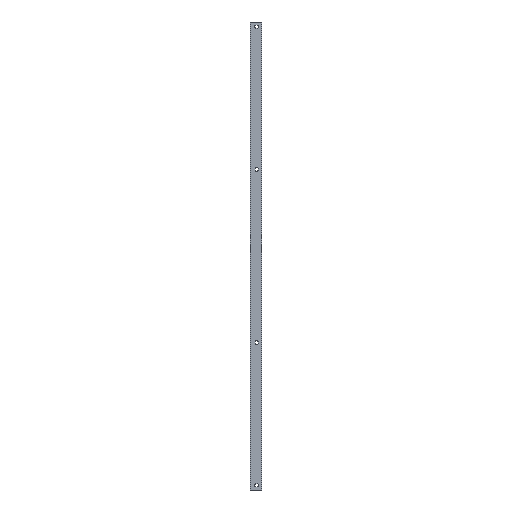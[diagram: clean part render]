
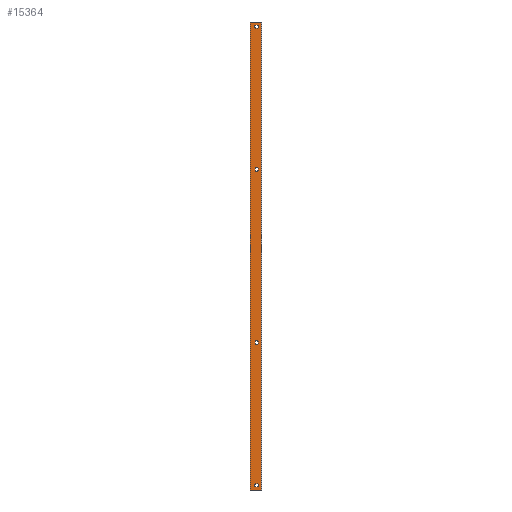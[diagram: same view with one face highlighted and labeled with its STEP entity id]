
A CAD part, front view. The second image highlights one B-rep face of the part: STEP entity #15364.
In plain terms, the highlighted planar face has unit normal (0, -1, 0).
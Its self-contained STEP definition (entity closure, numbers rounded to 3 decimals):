
#194=CIRCLE('',#16154,5.563);
#196=CIRCLE('',#16158,5.563);
#198=CIRCLE('',#16162,5.563);
#200=CIRCLE('',#16166,5.563);
#205=CIRCLE('',#16175,5.563);
#206=CIRCLE('',#16176,5.563);
#207=CIRCLE('',#16177,5.563);
#208=CIRCLE('',#16178,5.563);
#1009=ORIENTED_EDGE('',*,*,#5400,.T.);
#1010=ORIENTED_EDGE('',*,*,#5403,.T.);
#1011=ORIENTED_EDGE('',*,*,#5406,.T.);
#1012=ORIENTED_EDGE('',*,*,#5408,.T.);
#1013=ORIENTED_EDGE('',*,*,#5388,.T.);
#1014=ORIENTED_EDGE('',*,*,#5391,.T.);
#1015=ORIENTED_EDGE('',*,*,#5394,.T.);
#1016=ORIENTED_EDGE('',*,*,#5396,.T.);
#1017=ORIENTED_EDGE('',*,*,#5423,.F.);
#1018=ORIENTED_EDGE('',*,*,#5424,.F.);
#1019=ORIENTED_EDGE('',*,*,#5425,.F.);
#1020=ORIENTED_EDGE('',*,*,#5426,.F.);
#1021=ORIENTED_EDGE('',*,*,#5427,.F.);
#1022=ORIENTED_EDGE('',*,*,#5428,.F.);
#1023=ORIENTED_EDGE('',*,*,#5429,.F.);
#1024=ORIENTED_EDGE('',*,*,#5430,.F.);
#1025=ORIENTED_EDGE('',*,*,#5414,.T.);
#1026=ORIENTED_EDGE('',*,*,#5431,.T.);
#1027=ORIENTED_EDGE('',*,*,#5416,.T.);
#1028=ORIENTED_EDGE('',*,*,#5432,.T.);
#5388=EDGE_CURVE('',#7598,#7600,#194,.T.);
#5391=EDGE_CURVE('',#7600,#7602,#9005,.T.);
#5394=EDGE_CURVE('',#7602,#7604,#196,.T.);
#5396=EDGE_CURVE('',#7604,#7598,#9008,.T.);
#5400=EDGE_CURVE('',#7606,#7608,#198,.T.);
#5403=EDGE_CURVE('',#7608,#7610,#9013,.T.);
#5406=EDGE_CURVE('',#7610,#7612,#200,.T.);
#5408=EDGE_CURVE('',#7612,#7606,#9016,.T.);
#5414=EDGE_CURVE('',#7618,#7617,#9020,.T.);
#5416=EDGE_CURVE('',#7619,#7620,#9022,.T.);
#5423=EDGE_CURVE('',#7625,#7626,#205,.T.);
#5424=EDGE_CURVE('',#7627,#7625,#9027,.T.);
#5425=EDGE_CURVE('',#7628,#7627,#206,.T.);
#5426=EDGE_CURVE('',#7626,#7628,#9028,.T.);
#5427=EDGE_CURVE('',#7629,#7630,#207,.T.);
#5428=EDGE_CURVE('',#7631,#7629,#9029,.T.);
#5429=EDGE_CURVE('',#7632,#7631,#208,.T.);
#5430=EDGE_CURVE('',#7630,#7632,#9030,.T.);
#5431=EDGE_CURVE('',#7617,#7619,#9031,.T.);
#5432=EDGE_CURVE('',#7620,#7618,#9032,.T.);
#7598=VERTEX_POINT('',#22273);
#7600=VERTEX_POINT('',#22277);
#7602=VERTEX_POINT('',#22283);
#7604=VERTEX_POINT('',#22289);
#7606=VERTEX_POINT('',#22297);
#7608=VERTEX_POINT('',#22301);
#7610=VERTEX_POINT('',#22307);
#7612=VERTEX_POINT('',#22313);
#7617=VERTEX_POINT('',#22328);
#7618=VERTEX_POINT('',#22330);
#7619=VERTEX_POINT('',#22334);
#7620=VERTEX_POINT('',#22335);
#7625=VERTEX_POINT('',#22348);
#7626=VERTEX_POINT('',#22349);
#7627=VERTEX_POINT('',#22351);
#7628=VERTEX_POINT('',#22353);
#7629=VERTEX_POINT('',#22356);
#7630=VERTEX_POINT('',#22357);
#7631=VERTEX_POINT('',#22359);
#7632=VERTEX_POINT('',#22361);
#9005=LINE('',#22284,#11045);
#9008=LINE('',#22293,#11048);
#9013=LINE('',#22308,#11053);
#9016=LINE('',#22317,#11056);
#9020=LINE('',#22329,#11060);
#9022=LINE('',#22333,#11062);
#9027=LINE('',#22350,#11067);
#9028=LINE('',#22354,#11068);
#9029=LINE('',#22358,#11069);
#9030=LINE('',#22362,#11070);
#9031=LINE('',#22363,#11071);
#9032=LINE('',#22364,#11072);
#11045=VECTOR('',#17661,1000.);
#11048=VECTOR('',#17672,1000.);
#11053=VECTOR('',#17685,1000.);
#11056=VECTOR('',#17696,1000.);
#11060=VECTOR('',#17706,1000.);
#11062=VECTOR('',#17710,1000.);
#11067=VECTOR('',#17723,1000.);
#11068=VECTOR('',#17726,1000.);
#11069=VECTOR('',#17729,1000.);
#11070=VECTOR('',#17732,1000.);
#11071=VECTOR('',#17733,1000.);
#11072=VECTOR('',#17734,1000.);
#12621=EDGE_LOOP('',(#1009,#1010,#1011,#1012));
#12622=EDGE_LOOP('',(#1013,#1014,#1015,#1016));
#12623=EDGE_LOOP('',(#1017,#1018,#1019,#1020));
#12624=EDGE_LOOP('',(#1021,#1022,#1023,#1024));
#12625=EDGE_LOOP('',(#1025,#1026,#1027,#1028));
#13725=FACE_BOUND('',#12621,.T.);
#13726=FACE_BOUND('',#12622,.T.);
#13727=FACE_BOUND('',#12623,.T.);
#13728=FACE_BOUND('',#12624,.T.);
#13729=FACE_BOUND('',#12625,.T.);
#14652=PLANE('',#16174);
#15364=ADVANCED_FACE('',(#13725,#13726,#13727,#13728,#13729),#14652,.T.);
#16154=AXIS2_PLACEMENT_3D('',#22278,#17655,#17656);
#16158=AXIS2_PLACEMENT_3D('',#22290,#17667,#17668);
#16162=AXIS2_PLACEMENT_3D('',#22302,#17679,#17680);
#16166=AXIS2_PLACEMENT_3D('',#22314,#17691,#17692);
#16174=AXIS2_PLACEMENT_3D('',#22346,#17719,#17720);
#16175=AXIS2_PLACEMENT_3D('',#22347,#17721,#17722);
#16176=AXIS2_PLACEMENT_3D('',#22352,#17724,#17725);
#16177=AXIS2_PLACEMENT_3D('',#22355,#17727,#17728);
#16178=AXIS2_PLACEMENT_3D('',#22360,#17730,#17731);
#17655=DIRECTION('',(0.,1.,0.));
#17656=DIRECTION('',(0.,0.,-1.));
#17661=DIRECTION('',(0.,0.,-1.));
#17667=DIRECTION('',(0.,1.,0.));
#17668=DIRECTION('',(0.,0.,1.));
#17672=DIRECTION('',(0.,0.,1.));
#17679=DIRECTION('',(0.,1.,0.));
#17680=DIRECTION('',(-1.,0.,0.));
#17685=DIRECTION('',(-1.,0.,0.));
#17691=DIRECTION('',(0.,1.,0.));
#17692=DIRECTION('',(1.,0.,0.));
#17696=DIRECTION('',(1.,0.,0.));
#17706=DIRECTION('',(1.,0.,0.));
#17710=DIRECTION('',(-1.,0.,0.));
#17719=DIRECTION('',(0.,-1.,0.));
#17720=DIRECTION('',(0.,0.,-1.));
#17721=DIRECTION('',(0.,-1.,0.));
#17722=DIRECTION('',(0.,0.,1.));
#17723=DIRECTION('',(0.,0.,-1.));
#17724=DIRECTION('',(0.,-1.,0.));
#17725=DIRECTION('',(0.,0.,-1.));
#17726=DIRECTION('',(0.,0.,1.));
#17727=DIRECTION('',(0.,-1.,0.));
#17728=DIRECTION('',(-1.,0.,0.));
#17729=DIRECTION('',(1.,0.,0.));
#17730=DIRECTION('',(0.,-1.,0.));
#17731=DIRECTION('',(1.,0.,0.));
#17732=DIRECTION('',(-1.,0.,0.));
#17733=DIRECTION('',(0.,0.,1.));
#17734=DIRECTION('',(0.,0.,-1.));
#22273=CARTESIAN_POINT('',(-2.388,0.,374.65));
#22277=CARTESIAN_POINT('',(8.738,0.,374.65));
#22278=CARTESIAN_POINT('',(3.175,0.,374.65));
#22283=CARTESIAN_POINT('',(8.738,0.,366.725));
#22284=CARTESIAN_POINT('',(8.738,0.,366.725));
#22289=CARTESIAN_POINT('',(-2.388,0.,366.725));
#22290=CARTESIAN_POINT('',(3.175,0.,366.725));
#22293=CARTESIAN_POINT('',(-2.388,0.,366.725));
#22297=CARTESIAN_POINT('',(7.137,0.,985.85));
#22301=CARTESIAN_POINT('',(7.137,0.,974.725));
#22302=CARTESIAN_POINT('',(7.137,0.,980.288));
#22307=CARTESIAN_POINT('',(-0.787,0.,974.725));
#22308=CARTESIAN_POINT('',(-0.787,0.,974.725));
#22313=CARTESIAN_POINT('',(-0.787,0.,985.85));
#22314=CARTESIAN_POINT('',(-0.787,0.,980.288));
#22317=CARTESIAN_POINT('',(-0.787,0.,985.85));
#22328=CARTESIAN_POINT('',(21.768,0.,-1000.506));
#22329=CARTESIAN_POINT('',(-25.4,0.,-1000.506));
#22330=CARTESIAN_POINT('',(-25.4,0.,-1000.506));
#22333=CARTESIAN_POINT('',(25.4,0.,1000.506));
#22334=CARTESIAN_POINT('',(21.768,0.,1000.506));
#22335=CARTESIAN_POINT('',(-25.4,0.,1000.506));
#22346=CARTESIAN_POINT('',(-25.4,0.,-1000.506));
#22347=CARTESIAN_POINT('',(3.175,0.,-374.65));
#22348=CARTESIAN_POINT('',(-2.388,0.,-374.65));
#22349=CARTESIAN_POINT('',(8.738,0.,-374.65));
#22350=CARTESIAN_POINT('',(-2.388,0.,-366.725));
#22351=CARTESIAN_POINT('',(-2.388,0.,-366.725));
#22352=CARTESIAN_POINT('',(3.175,0.,-366.725));
#22353=CARTESIAN_POINT('',(8.738,0.,-366.725));
#22354=CARTESIAN_POINT('',(8.738,0.,-366.725));
#22355=CARTESIAN_POINT('',(7.137,0.,-980.288));
#22356=CARTESIAN_POINT('',(7.137,0.,-985.85));
#22357=CARTESIAN_POINT('',(7.137,0.,-974.725));
#22358=CARTESIAN_POINT('',(-0.787,0.,-985.85));
#22359=CARTESIAN_POINT('',(-0.787,0.,-985.85));
#22360=CARTESIAN_POINT('',(-0.787,0.,-980.288));
#22361=CARTESIAN_POINT('',(-0.787,0.,-974.725));
#22362=CARTESIAN_POINT('',(-0.787,0.,-974.725));
#22363=CARTESIAN_POINT('',(21.768,0.,-1000.506));
#22364=CARTESIAN_POINT('',(-25.4,0.,1000.506));
